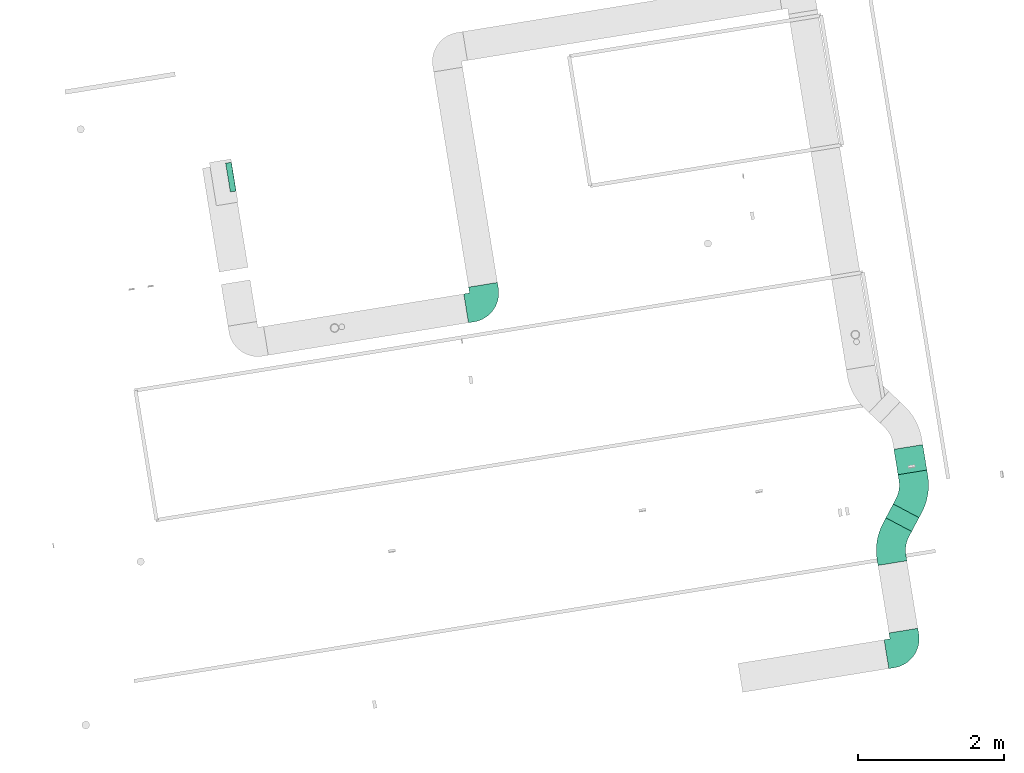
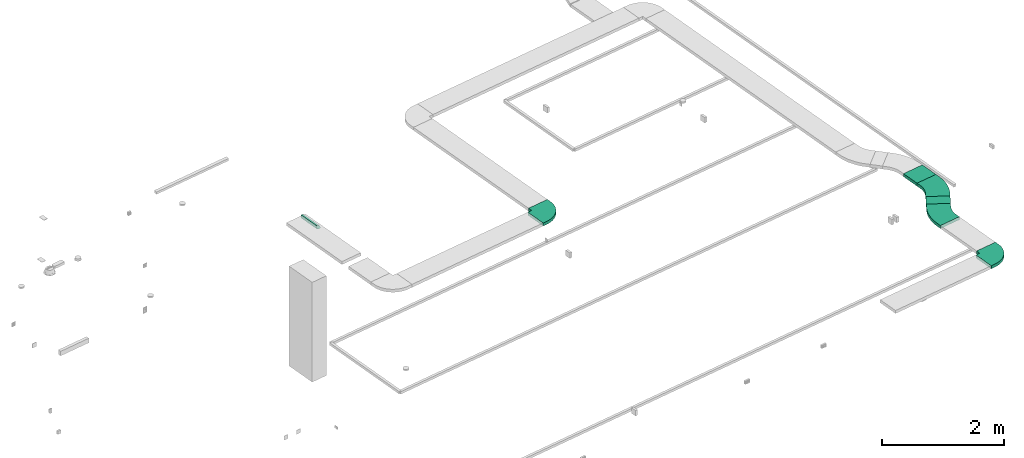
# One storey, part 3 of 20: 5 flow fittings, 2 flow segments.
"""IFC2X3 building model written with IfcOpenShell, lengths in millimetres."""

from ifc_helpers import new_model, entity, si_unit, converted_unit, derived_unit, direction, frame, frame_2d, origin, origin_with_axes, origin_2d_with_axis, place, context, subcontext, project, spatial, polyline, circle_curve, parameter, trimmed, segment, composite_curve, rectangle, outline, extrude, source, transform, mapped, material, type_object, element, save


model = new_model("IFC2X3")

# Units and contexts
model_context = context("Model", 3, precision=0.01, world=origin(), true_north=direction((6.12323399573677e-17, 1.0)))
plan_context = context("Plan", 3, precision=1e-05, world=origin_with_axes())
body_context = subcontext(model_context, "Body", "Model", "MODEL_VIEW")
ifc_project = project(units=[converted_unit("PLANEANGLEUNIT", "DEGREE", entity("IfcPositiveLengthMeasure", 0.0174532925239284), si_unit("PLANEANGLEUNIT", "RADIAN"), dimensions=[0, 0, 0, 0, 0, 0, 0]), si_unit("AREAUNIT", "SQUARE_METRE"), si_unit("LENGTHUNIT", "METRE", prefix="MILLI"), si_unit("MASSUNIT", "GRAM", prefix="KILO"), si_unit("POWERUNIT", "WATT"), si_unit("PRESSUREUNIT", "PASCAL", prefix="KILO"), si_unit("FORCEUNIT", "NEWTON", prefix="KILO"), si_unit("ELECTRICVOLTAGEUNIT", "VOLT"), si_unit("ELECTRICCURRENTUNIT", "AMPERE"), si_unit("THERMODYNAMICTEMPERATUREUNIT", "DEGREE_CELSIUS"), si_unit("TIMEUNIT", "SECOND"), si_unit("VOLUMEUNIT", "CUBIC_METRE"), derived_unit("LINEARVELOCITYUNIT", [(si_unit("LENGTHUNIT", "METRE"), 1), (si_unit("TIMEUNIT", "SECOND"), -1)]), derived_unit("VOLUMETRICFLOWRATEUNIT", [(si_unit("VOLUMEUNIT", "CUBIC_METRE"), 1), (si_unit("TIMEUNIT", "SECOND"), -1)]), derived_unit("THERMALTRANSMITTANCEUNIT", [(si_unit("POWERUNIT", "WATT"), 1), (si_unit("THERMODYNAMICTEMPERATUREUNIT", "KELVIN"), -1), (si_unit("AREAUNIT", "SQUARE_METRE"), -1)]), derived_unit("SOUNDPRESSUREUNIT", [(si_unit("PRESSUREUNIT", "PASCAL"), 1)])], contexts=[model_context, plan_context])

# Site, building, storey
site_placement = place(None, frame((-0.219946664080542, 0.12226179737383, 0.0), z_axis=(0.0, 0.0, 1.0), x_axis=(-0.160236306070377, 0.987078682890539, 0.0)))
site = spatial("IfcSite", under=ifc_project, at=site_placement, Name="Default", CompositionType="ELEMENT")
building_placement = place(site_placement, origin_with_axes())
building = spatial("IfcBuilding", under=site, at=building_placement, CompositionType="ELEMENT")
storey_placement = place(building_placement, frame((0.0, 0.0, 50999.9999999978), z_axis=(0.0, 0.0, 1.0), x_axis=(1.0, 0.0, 0.0)))
storey = spatial("IfcBuildingStorey", under=building, at=storey_placement, Name="Nivå D", CompositionType="ELEMENT", Elevation=50999.9999999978)

# Flow fittings
ifc_material = material(Name="<Unnamed>")
cable_carrier_fitting_type_1 = type_object("IfcCableCarrierFittingType", Name="MC_Ladder Vertical Outside Bend:Standard 10mm", PredefinedType="NOTDEFINED", material=ifc_material)
shared_shape_1 = source(origin(), body_context, "Body", "SweptSolid", [
    extrude(outline(composite_curve([segment(polyline([(-27.5000000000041, -52.4999999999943), (-17.5000000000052, -52.4999999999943)]), True, "CONTINUOUS"), segment(trimmed(circle_curve(frame_2d((-17.4999999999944, 17.5000000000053), x_axis=(0.0, -1.0)), 69.9999999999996), [parameter(0.0)], [parameter(90.0)], True, "PARAMETER"), True, "CONTINUOUS"), segment(polyline([(52.5000000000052, 17.4999999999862), (52.5000000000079, 27.4999999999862)]), True, "CONTINUOUS"), segment(polyline([(52.5000000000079, 27.4999999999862), (-7.49999999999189, 27.5000000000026)]), True, "CONTINUOUS"), segment(polyline([(-7.49999999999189, 27.5000000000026), (-7.49999999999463, 17.5000000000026)]), True, "CONTINUOUS"), segment(trimmed(circle_curve(frame_2d((-17.4999999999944, 17.5000000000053), x_axis=(0.0, -1.0)), 9.99999999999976), [parameter(0.0)], [parameter(90.0)], True, "PARAMETER"), False, "CONTINUOUS"), segment(polyline([(-17.5000000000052, 7.50000000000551), (-27.500000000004, 7.50000000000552)]), True, "CONTINUOUS"), segment(polyline([(-27.500000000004, 7.50000000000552), (-27.5000000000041, -52.4999999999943)]), True, "CONTINUOUS")], self_intersect=False)), frame((-22.4999999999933, 22.4999999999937, -200.0)), (0.0, 0.0, 1.0), 400.0),
])
flow_fitting_placement = place(storey_placement, frame((776972.803972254, -594378.612622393, 2925.0), z_axis=(1.0, 0.0, 0.0), x_axis=(0.0, -1.0, 0.0)))
element("IfcFlowFitting", 1, at=flow_fitting_placement, inside=storey, type_object=cable_carrier_fitting_type_1, material=ifc_material, Name="MC_Ladder Vertical Outside Bend:Standard 10mm", ObjectType="MC_Ladder Vertical Outside Bend:Standard 10mm", context=body_context, shape_type="MappedRepresentation", body=[
    mapped(shared_shape_1, transform((0.0, 0.0, 0.0), scale=1.0)),
])
cable_carrier_fitting_type_2 = type_object("IfcCableCarrierFittingType", Name="M_Ladder Horizontal Bend:Standard", PredefinedType="NOTDEFINED", material=ifc_material)
shared_shape_2 = source(origin(), body_context, "Body", "SweptSolid", [
    extrude(outline(composite_curve([segment(polyline([(-160.500000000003, -320.499999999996), (-80.5000000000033, -320.499999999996)]), True, "CONTINUOUS"), segment(trimmed(circle_curve(frame_2d((-80.4999999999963, 80.5000000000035), x_axis=(0.0, -1.0)), 401.0), [parameter(0.0)], [parameter(90.0)], True, "PARAMETER"), True, "CONTINUOUS"), segment(polyline([(320.500000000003, 80.4999999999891), (320.500000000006, 160.499999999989)]), True, "CONTINUOUS"), segment(polyline([(320.500000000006, 160.499999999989), (-79.4999999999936, 160.500000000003)]), True, "CONTINUOUS"), segment(polyline([(-79.4999999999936, 160.500000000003), (-79.4999999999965, 80.5000000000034)]), True, "CONTINUOUS"), segment(trimmed(circle_curve(frame_2d((-80.4999999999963, 80.5000000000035), x_axis=(0.0, -1.0)), 0.999999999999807), [parameter(0.0)], [parameter(90.0)], True, "PARAMETER"), False, "CONTINUOUS"), segment(polyline([(-80.5000000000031, 79.5000000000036), (-160.500000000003, 79.5000000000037)]), True, "CONTINUOUS"), segment(polyline([(-160.500000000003, 79.5000000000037), (-160.500000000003, -320.499999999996)]), True, "CONTINUOUS")], self_intersect=False)), frame((-120.499999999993, 120.499999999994, -30.0)), (0.0, 0.0, 1.0), 60.0000000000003),
])
for number, where, z_axis, x_axis, name in (
    (2, (774680.46945949, -597544.170719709, 2925.0), (0.0, 0.0, 1.0), (0.0, -1.0, 0.0), "M_Ladder Horizontal Bend:Standard"),
    (3, (769077.619644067, -602472.480498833, 2925.0), (0.0, 0.0, 1.0), (0.0, -1.0, 0.0), "M_Ladder Horizontal Bend:Standard"),
):
    element("IfcFlowFitting", number, at=place(storey_placement, frame(where, z_axis=z_axis, x_axis=x_axis)), inside=storey, type_object=cable_carrier_fitting_type_2, material=ifc_material, Name=name, ObjectType="M_Ladder Horizontal Bend:Standard", context=body_context, shape_type="MappedRepresentation", body=[
        mapped(shared_shape_2, transform((0.0, 0.0, 0.0), scale=1.0)),
    ])
cable_carrier_fitting_type_3 = type_object("IfcCableCarrierFittingType", Name="M_Ladder Horizontal Bend:Standard", PredefinedType="NOTDEFINED", material=ifc_material)
shared_shape_3 = source(origin(), body_context, "Body", "SweptSolid", [
    extrude(outline(composite_curve([segment(polyline([(-257.169630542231, -273.010712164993), (-177.169630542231, -273.010712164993)]), True, "CONTINUOUS"), segment(trimmed(circle_curve(frame_2d((-177.169630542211, 526.989287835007), x_axis=(0.0, -1.0)), 800.0), [parameter(0.0)], [parameter(37.1644748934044)], True, "PARAMETER"), True, "CONTINUOUS"), segment(polyline([(306.114470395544, -110.53441978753), (369.866841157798, -62.206009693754)]), True, "CONTINUOUS"), segment(polyline([(369.866841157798, -62.206009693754), (128.22479068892, 256.555844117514)]), True, "CONTINUOUS"), segment(polyline([(128.22479068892, 256.555844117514), (64.4724199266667, 208.227434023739)]), True, "CONTINUOUS"), segment(trimmed(circle_curve(frame_2d((-177.169630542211, 526.989287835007), x_axis=(0.0, -1.0)), 400.0), [parameter(0.0)], [parameter(37.1644748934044)], True, "PARAMETER"), False, "CONTINUOUS"), segment(polyline([(-177.169630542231, 126.989287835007), (-257.169630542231, 126.989287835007)]), True, "CONTINUOUS"), segment(polyline([(-257.169630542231, 126.989287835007), (-257.169630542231, -273.010712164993)]), True, "CONTINUOUS")], self_intersect=False)), frame((-24.545623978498, 73.0107121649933, -30.0)), (0.0, 0.0, 1.0), 60.0000000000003),
])
for number, where, z_axis, x_axis, name in (
    (4, (770578.619644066, -602472.480498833, 2925.0), (0.0, 0.0, 1.0), (-0.796904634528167, 0.604105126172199, 0.0), "M_Ladder Horizontal Bend:Standard"),
    (5, (771198.619644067, -602942.480498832, 2925.0), (0.0, 0.0, 1.0), (0.796904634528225, -0.604105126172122, 0.0), "M_Ladder Horizontal Bend:Standard"),
):
    element("IfcFlowFitting", number, at=place(storey_placement, frame(where, z_axis=z_axis, x_axis=x_axis)), inside=storey, type_object=cable_carrier_fitting_type_3, material=ifc_material, Name=name, ObjectType="M_Ladder Horizontal Bend:Standard", context=body_context, shape_type="MappedRepresentation", body=[
        mapped(shared_shape_3, transform((0.0, 0.0, 0.0), scale=1.0)),
    ])

# Flow segments
cable_carrier_segment_type = type_object("IfcCableCarrierSegmentType", Name="Cable Tray with Fittings:Kabelbro", PredefinedType="CABLETRAYSEGMENT")
flow_segment_1_placement = place(storey_placement, origin_with_axes())
element("IfcFlowSegment", 6, at=flow_segment_1_placement, inside=storey, type_object=cable_carrier_segment_type, Name="Cable Tray with Fittings:Kabelbro", ObjectType="Cable Tray with Fittings:Kabelbro", context=body_context, shape_type="SweptSolid", body=[
    extrude(rectangle(XDim=352.775674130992, YDim=400.000000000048, at=origin_2d_with_axis()), frame((771656.722735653, -602942.480498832, 2895.0)), (0.0, 0.0, 1.0), 60.0000000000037),
])
flow_segment_2_placement = place(storey_placement, origin_with_axes())
element("IfcFlowSegment", 7, at=flow_segment_2_placement, inside=storey, type_object=cable_carrier_segment_type, Name="Cable Tray with Fittings:Kabelbro", ObjectType="Cable Tray with Fittings:Kabelbro", context=body_context, shape_type="SweptSolid", body=[
    extrude(rectangle(XDim=214.579773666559, YDim=399.999999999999, at=frame_2d((7.61630758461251e-11, 1.42392764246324e-11), x_axis=(1.0, 0.0))), frame((770888.619644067, -602707.480498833, 2895.0), z_axis=(0.0, 0.0, 1.0), x_axis=(0.796904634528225, -0.604105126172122, 0.0)), (0.0, 0.0, 1.0), 60.0000000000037),
])

save(model, "model.ifc")
